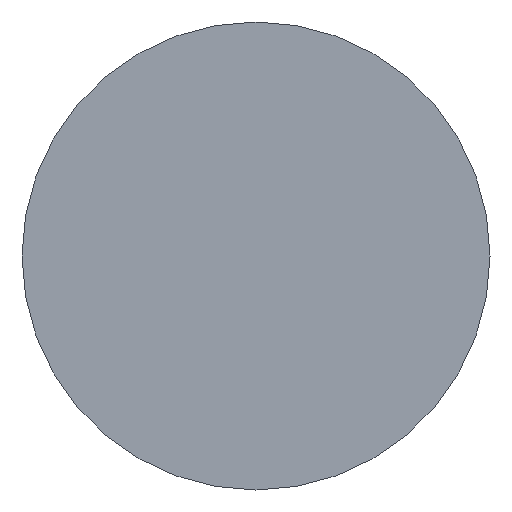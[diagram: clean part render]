
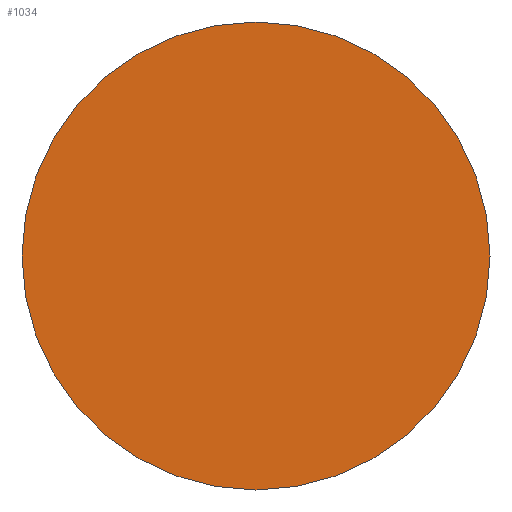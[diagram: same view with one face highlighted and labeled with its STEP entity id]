
A CAD part, left-side view. The second image highlights one B-rep face of the part: STEP entity #1034.
In plain terms, the highlighted planar face has unit normal (-1, 0, 0).
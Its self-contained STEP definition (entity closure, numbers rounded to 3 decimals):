
#987=CARTESIAN_POINT('',(-424.185,-513.109,-20.497));
#988=VERTEX_POINT('',#987);
#995=CARTESIAN_POINT('',(-424.185,-463.109,-20.497));
#996=VERTEX_POINT('',#995);
#997=CARTESIAN_POINT('',(-424.185,-488.109,-20.497));
#998=DIRECTION('',(-1.0,0.0,0.0));
#999=DIRECTION('',(0.0,-1.0,0.0));
#1000=AXIS2_PLACEMENT_3D('',#997,#998,#999);
#1001=CIRCLE('',#1000,25.0);
#1002=EDGE_CURVE('',#996,#988,#1001,.T.);
#1004=CARTESIAN_POINT('',(-424.185,-488.109,-20.497));
#1005=DIRECTION('',(-1.0,0.0,0.0));
#1006=DIRECTION('',(0.0,-1.0,0.0));
#1007=AXIS2_PLACEMENT_3D('',#1004,#1005,#1006);
#1008=CIRCLE('',#1007,25.0);
#1009=EDGE_CURVE('',#988,#996,#1008,.T.);
#1025=CARTESIAN_POINT('',(-424.185,-458.109,-50.497));
#1026=DIRECTION('',(-1.0,0.0,0.0));
#1027=DIRECTION('',(0.0,-1.0,0.0));
#1028=AXIS2_PLACEMENT_3D('',#1025,#1026,#1027);
#1029=PLANE('',#1028);
#1030=ORIENTED_EDGE('',*,*,#1009,.T.);
#1031=ORIENTED_EDGE('',*,*,#1002,.T.);
#1032=EDGE_LOOP('',(#1030,#1031));
#1033=FACE_OUTER_BOUND('',#1032,.T.);
#1034=ADVANCED_FACE('',(#1033),#1029,.T.);
